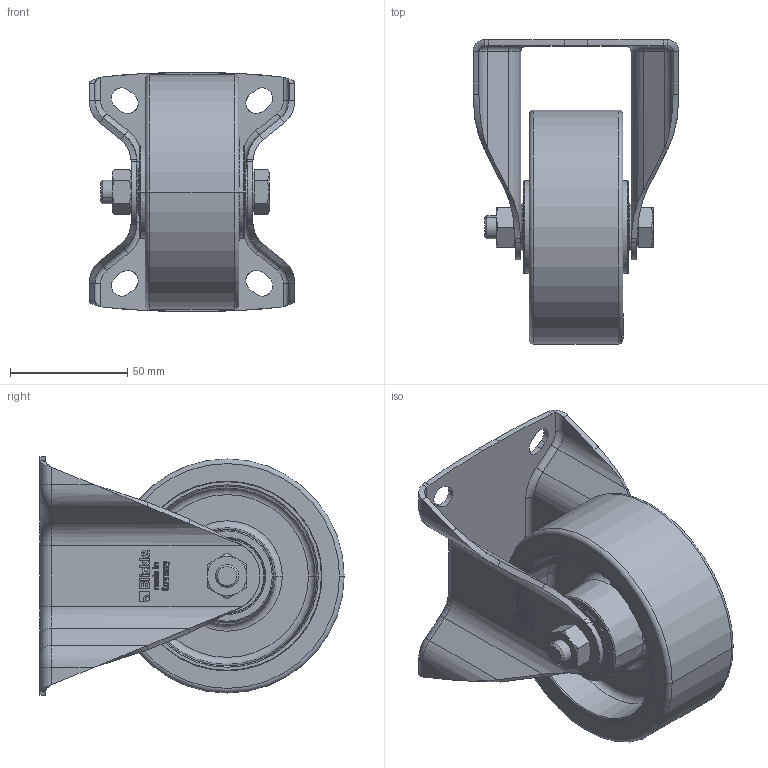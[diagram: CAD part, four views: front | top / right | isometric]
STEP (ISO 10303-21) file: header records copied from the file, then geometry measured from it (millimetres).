
FILE_DESCRIPTION (( 'STEP AP214' ), '1' );
FILE_NAME ('BK-ALTH_100K-1_265819-214.step', '2021-12-01T14:44:58', ( '' ), ( '' ), 'SwSTEP 2.0', 'SolidWorks 2018', '' );
FILE_SCHEMA (( 'AUTOMOTIVE_DESIGN' ));
Length unit declared in the file: millimetre
Products named in the file (5): ALTH_3D_G16_ALTH_100_15K_231191; GH-BK-100x45-01_15x45_G16_3D; BK-ALTH_100K-1_265819-214; ALTH_100_15K_G16_3D; GH-BK_80-125_GH-BK-100x45-01_15x45
Assembly tree (4 placements, depth 3):
  BK-ALTH_100K-1_265819-214
    GH-BK_80-125_GH-BK-100x45-01_15x45
      GH-BK-100x45-01_15x45_G16_3D
    ALTH_3D_G16_ALTH_100_15K_231191
      ALTH_100_15K_G16_3D
Bounding box: 88 x 130.01 x 102 mm (x, y, z)
Volume: 248018.8 mm3; surface area: 94610.6 mm2
Topology: 2 solids, 5 shells, 1701 faces, 4444 edges, 2895 vertices
Faces by surface type: plane 812, bspline 640, cylinder 94, torus 94, cone 61
Entity records: 75145 total; most frequent: CARTESIAN_POINT 22024, ORIENTED_EDGE 8888, DIRECTION 5705, EDGE_CURVE 4444, VERTEX_POINT 2895, LINE 2691, VECTOR 2691, EDGE_LOOP 1861
